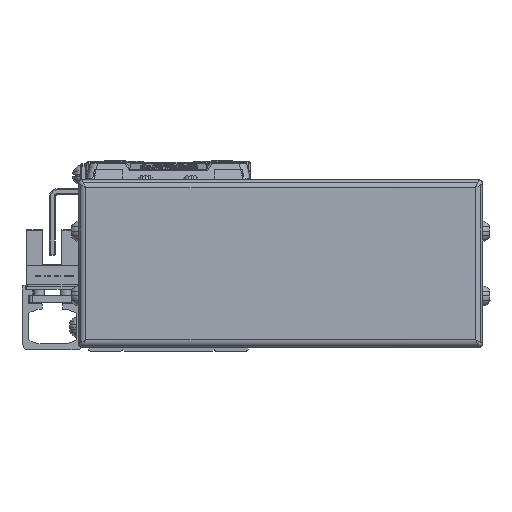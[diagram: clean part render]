
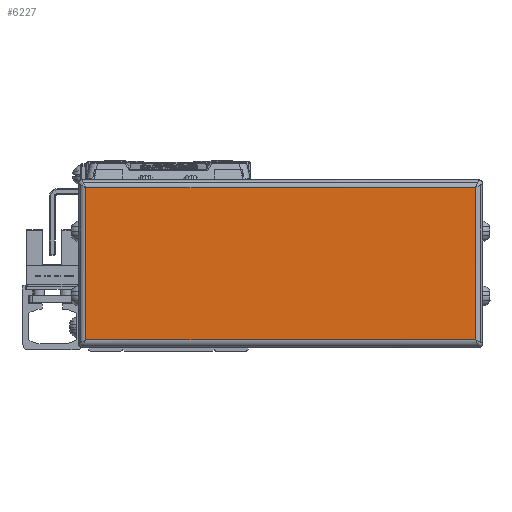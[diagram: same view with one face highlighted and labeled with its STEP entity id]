
A CAD part, left-side view. The second image highlights one B-rep face of the part: STEP entity #6227.
In plain terms, the highlighted planar face has unit normal (-1, 0, 0).
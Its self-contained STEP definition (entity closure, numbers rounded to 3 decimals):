
#6227=ADVANCED_FACE('',(#13028),#13029,.T.);
#13028=FACE_OUTER_BOUND('',#23135,.T.);
#13029=PLANE('',#23136);
#23135=EDGE_LOOP('',(#41177,#41178,#41179,#41180));
#23136=AXIS2_PLACEMENT_3D('',#41181,#41182,#41183);
#41177=ORIENTED_EDGE('',*,*,#51846,.F.);
#41178=ORIENTED_EDGE('',*,*,#48989,.F.);
#41179=ORIENTED_EDGE('',*,*,#52807,.F.);
#41180=ORIENTED_EDGE('',*,*,#50781,.F.);
#41181=CARTESIAN_POINT('',(-48.,-29.5,-4.));
#41182=DIRECTION('',(-1.0,0.,0.));
#41183=DIRECTION('',(0.,0.,1.0));
#48989=EDGE_CURVE('',#57370,#57097,#58954,.T.);
#50781=EDGE_CURVE('',#61756,#55184,#61758,.T.);
#51846=EDGE_CURVE('',#57097,#61756,#63295,.T.);
#52807=EDGE_CURVE('',#55184,#57370,#64614,.T.);
#55184=VERTEX_POINT('',#67389);
#57097=VERTEX_POINT('',#69935);
#57370=VERTEX_POINT('',#70351);
#58954=LINE('',#72749,#72750);
#61756=VERTEX_POINT('',#76683);
#61758=LINE('',#76685,#76686);
#63295=LINE('',#78911,#78912);
#64614=LINE('',#81027,#81028);
#67389=CARTESIAN_POINT('',(-48.,-80.7,-24.));
#69935=CARTESIAN_POINT('',(-48.,21.7,16.));
#70351=CARTESIAN_POINT('',(-48.,21.7,-24.));
#72749=CARTESIAN_POINT('',(-48.,21.7,-4.));
#72750=VECTOR('',#87894,10.0);
#76683=CARTESIAN_POINT('',(-48.,-80.7,16.));
#76685=CARTESIAN_POINT('',(-48.,-80.7,-4.));
#76686=VECTOR('',#90166,10.0);
#78911=CARTESIAN_POINT('',(-48.,-29.5,16.));
#78912=VECTOR('',#91483,10.0);
#81027=CARTESIAN_POINT('',(-48.,-29.5,-24.));
#81028=VECTOR('',#92640,10.0);
#87894=DIRECTION('',(0.,0.,1.0));
#90166=DIRECTION('',(0.,0.,-1.0));
#91483=DIRECTION('',(0.,-1.0,0.));
#92640=DIRECTION('',(0.,1.0,0.));
